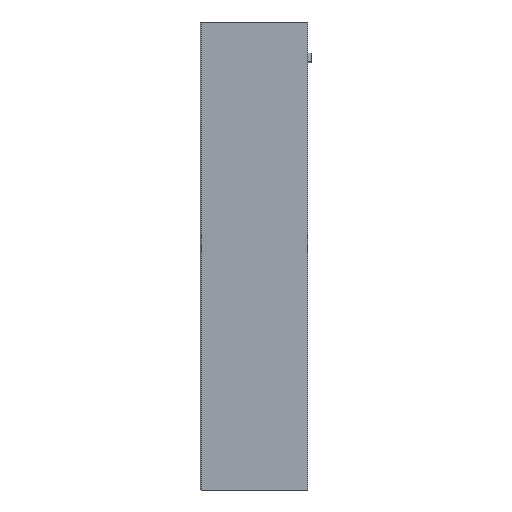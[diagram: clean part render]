
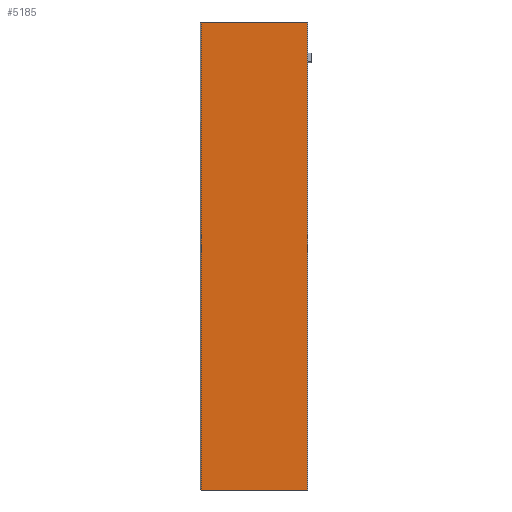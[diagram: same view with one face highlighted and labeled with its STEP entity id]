
A CAD part, left-side view. The second image highlights one B-rep face of the part: STEP entity #5185.
In plain terms, the highlighted planar face has unit normal (-1, 0, 0).
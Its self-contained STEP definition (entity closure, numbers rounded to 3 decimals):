
#505 = VERTEX_POINT ( 'NONE', #1524 ) ;
#855 = EDGE_CURVE ( 'NONE', #505, #7738, #2284, .T. ) ;
#874 = CARTESIAN_POINT ( 'NONE',  ( -12.5, 93.8, 0. ) ) ;
#941 = EDGE_LOOP ( 'NONE', ( #6013, #10810, #9075, #6720 ) ) ;
#1524 = CARTESIAN_POINT ( 'NONE',  ( -12.5, -30.66, -549. ) ) ;
#1915 = LINE ( 'NONE', #7480, #12181 ) ;
#2284 = LINE ( 'NONE', #8546, #4250 ) ;
#2288 = CARTESIAN_POINT ( 'NONE',  ( -12.5, 56.8, -549. ) ) ;
#3139 = DIRECTION ( 'NONE',  ( 0., 1., 0. ) ) ;
#3158 = DIRECTION ( 'NONE',  ( -1., 0., 0. ) ) ;
#3184 = PLANE ( 'NONE',  #4505 ) ;
#3314 = CARTESIAN_POINT ( 'NONE',  ( -12.5, 55.8, -562.455 ) ) ;
#3496 = EDGE_CURVE ( 'NONE', #11251, #3877, #12068, .T. ) ;
#3877 = VERTEX_POINT ( 'NONE', #874 ) ;
#4235 = EDGE_CURVE ( 'NONE', #3877, #7738, #1915, .T. ) ;
#4250 = VECTOR ( 'NONE', #8562, 1000. ) ;
#4505 = AXIS2_PLACEMENT_3D ( 'NONE', #3314, #3158, #3139 ) ;
#4601 = CARTESIAN_POINT ( 'NONE',  ( -12.5, -30.66, 0. ) ) ;
#4625 = VECTOR ( 'NONE', #5418, 1000. ) ;
#5185 = ADVANCED_FACE ( 'NONE', ( #7559 ), #3184, .T. ) ;
#5418 = DIRECTION ( 'NONE',  ( 0., 0., 1. ) ) ;
#5950 = EDGE_CURVE ( 'NONE', #11251, #505, #11876, .T. ) ;
#6013 = ORIENTED_EDGE ( 'NONE', *, *, #3496, .F. ) ;
#6720 = ORIENTED_EDGE ( 'NONE', *, *, #4235, .F. ) ;
#7076 = VECTOR ( 'NONE', #7178, 1000. ) ;
#7115 = DIRECTION ( 'NONE',  ( 0., -1., 0. ) ) ;
#7178 = DIRECTION ( 'NONE',  ( 0., -1., 0. ) ) ;
#7480 = CARTESIAN_POINT ( 'NONE',  ( -12.5, 55.8, 0. ) ) ;
#7541 = CARTESIAN_POINT ( 'NONE',  ( -12.5, 93.8, -562.455 ) ) ;
#7559 = FACE_OUTER_BOUND ( 'NONE', #941, .T. ) ;
#7738 = VERTEX_POINT ( 'NONE', #4601 ) ;
#8546 = CARTESIAN_POINT ( 'NONE',  ( -12.5, -30.66, -562.455 ) ) ;
#8562 = DIRECTION ( 'NONE',  ( 0., 0., 1. ) ) ;
#9075 = ORIENTED_EDGE ( 'NONE', *, *, #855, .T. ) ;
#10810 = ORIENTED_EDGE ( 'NONE', *, *, #5950, .T. ) ;
#11251 = VERTEX_POINT ( 'NONE', #11332 ) ;
#11332 = CARTESIAN_POINT ( 'NONE',  ( -12.5, 93.8, -549. ) ) ;
#11876 = LINE ( 'NONE', #2288, #7076 ) ;
#12068 = LINE ( 'NONE', #7541, #4625 ) ;
#12181 = VECTOR ( 'NONE', #7115, 1000. ) ;
